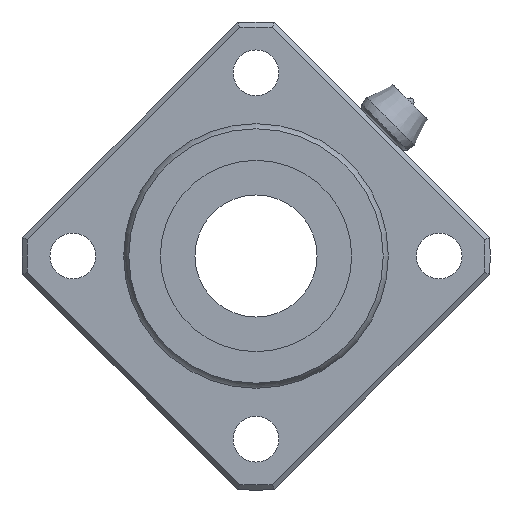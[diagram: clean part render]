
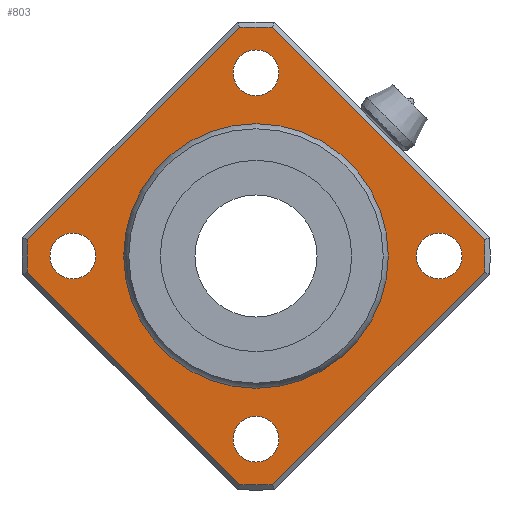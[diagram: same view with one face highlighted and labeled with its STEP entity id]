
A CAD part, left-side view. The second image highlights one B-rep face of the part: STEP entity #803.
In plain terms, the highlighted planar face has unit normal (-1, 0, 0).
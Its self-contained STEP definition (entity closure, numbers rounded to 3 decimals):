
#490=CARTESIAN_POINT('',(6.,-1.598,-22.443));
#491=VERTEX_POINT('',#490);
#499=CARTESIAN_POINT('',(6.,1.598,-22.443));
#500=VERTEX_POINT('',#499);
#501=CARTESIAN_POINT('',(6.,0.0,0.0));
#502=DIRECTION('',(1.0,0.0,0.0));
#503=DIRECTION('',(0.0,0.0,-1.0));
#504=AXIS2_PLACEMENT_3D('',#501,#502,#503);
#505=CIRCLE('',#504,22.5);
#506=EDGE_CURVE('',#491,#500,#505,.T.);
#525=CARTESIAN_POINT('',(6.,22.443,-1.598));
#526=VERTEX_POINT('',#525);
#527=CARTESIAN_POINT('',(6.,1.598,-22.443));
#528=DIRECTION('',(0.0,0.707,0.707));
#529=VECTOR('',#528,29.479);
#530=LINE('',#527,#529);
#531=EDGE_CURVE('',#500,#526,#530,.T.);
#558=CARTESIAN_POINT('',(6.,22.443,1.598));
#559=VERTEX_POINT('',#558);
#560=CARTESIAN_POINT('',(6.,0.0,0.0));
#561=DIRECTION('',(1.0,0.0,0.0));
#562=DIRECTION('',(0.0,0.0,1.0));
#563=AXIS2_PLACEMENT_3D('',#560,#561,#562);
#564=CIRCLE('',#563,22.5);
#565=EDGE_CURVE('',#526,#559,#564,.T.);
#591=CARTESIAN_POINT('',(6.,1.598,22.443));
#592=VERTEX_POINT('',#591);
#593=CARTESIAN_POINT('',(6.,22.443,1.598));
#594=DIRECTION('',(0.0,-0.707,0.707));
#595=VECTOR('',#594,29.479);
#596=LINE('',#593,#595);
#597=EDGE_CURVE('',#559,#592,#596,.T.);
#624=CARTESIAN_POINT('',(6.,-1.598,22.443));
#625=VERTEX_POINT('',#624);
#626=CARTESIAN_POINT('',(6.,0.0,0.0));
#627=DIRECTION('',(1.0,0.0,0.0));
#628=DIRECTION('',(0.0,0.0,1.0));
#629=AXIS2_PLACEMENT_3D('',#626,#627,#628);
#630=CIRCLE('',#629,22.5);
#631=EDGE_CURVE('',#592,#625,#630,.T.);
#655=CARTESIAN_POINT('',(6.,-22.443,1.598));
#656=VERTEX_POINT('',#655);
#657=CARTESIAN_POINT('',(6.,-1.598,22.443));
#658=DIRECTION('',(0.0,-0.707,-0.707));
#659=VECTOR('',#658,29.479);
#660=LINE('',#657,#659);
#661=EDGE_CURVE('',#625,#656,#660,.T.);
#680=CARTESIAN_POINT('',(6.,-22.443,-1.598));
#681=VERTEX_POINT('',#680);
#682=CARTESIAN_POINT('',(6.,0.0,0.0));
#683=DIRECTION('',(1.0,0.0,0.0));
#684=DIRECTION('',(0.0,0.0,1.0));
#685=AXIS2_PLACEMENT_3D('',#682,#683,#684);
#686=CIRCLE('',#685,22.5);
#687=EDGE_CURVE('',#656,#681,#686,.T.);
#706=CARTESIAN_POINT('',(6.,-22.443,-1.598));
#707=DIRECTION('',(0.0,0.707,-0.707));
#708=VECTOR('',#707,29.479);
#709=LINE('',#706,#708);
#710=EDGE_CURVE('',#681,#491,#709,.T.);
#733=CARTESIAN_POINT('',(6.,0.0,17.887));
#734=DIRECTION('',(-1.0,0.0,0.0));
#735=DIRECTION('',(0.0,0.0,1.0));
#736=AXIS2_PLACEMENT_3D('',#733,#734,#735);
#737=PLANE('',#736);
#738=ORIENTED_EDGE('',*,*,#506,.F.);
#739=ORIENTED_EDGE('',*,*,#710,.F.);
#740=ORIENTED_EDGE('',*,*,#687,.F.);
#741=ORIENTED_EDGE('',*,*,#661,.F.);
#742=ORIENTED_EDGE('',*,*,#631,.F.);
#743=ORIENTED_EDGE('',*,*,#597,.F.);
#744=ORIENTED_EDGE('',*,*,#565,.F.);
#745=ORIENTED_EDGE('',*,*,#531,.F.);
#746=EDGE_LOOP('',(#738,#739,#740,#741,#742,#743,#744,#745));
#747=FACE_OUTER_BOUND('',#746,.T.);
#748=CARTESIAN_POINT('',(6.,0.0,12.773));
#749=VERTEX_POINT('',#748);
#750=CARTESIAN_POINT('',(6.,0.0,0.0));
#751=DIRECTION('',(-1.0,0.0,0.0));
#752=DIRECTION('',(0.0,0.0,1.0));
#753=AXIS2_PLACEMENT_3D('',#750,#751,#752);
#754=CIRCLE('',#753,12.773);
#755=EDGE_CURVE('',#749,#749,#754,.T.);
#756=ORIENTED_EDGE('',*,*,#755,.F.);
#757=EDGE_LOOP('',(#756));
#758=FACE_BOUND('',#757,.T.);
#759=CARTESIAN_POINT('',(6.,15.75,0.));
#760=VERTEX_POINT('',#759);
#761=CARTESIAN_POINT('',(6.,18.0,0.));
#762=DIRECTION('',(1.0,0.0,0.0));
#763=DIRECTION('',(0.0,1.0,0.0));
#764=AXIS2_PLACEMENT_3D('',#761,#762,#763);
#765=CIRCLE('',#764,2.25);
#766=EDGE_CURVE('',#760,#760,#765,.T.);
#767=ORIENTED_EDGE('',*,*,#766,.T.);
#768=EDGE_LOOP('',(#767));
#769=FACE_BOUND('',#768,.T.);
#770=CARTESIAN_POINT('',(6.,-20.25,0.));
#771=VERTEX_POINT('',#770);
#772=CARTESIAN_POINT('',(6.,-18.0,0.));
#773=DIRECTION('',(1.0,0.0,0.0));
#774=DIRECTION('',(0.0,1.0,0.0));
#775=AXIS2_PLACEMENT_3D('',#772,#773,#774);
#776=CIRCLE('',#775,2.25);
#777=EDGE_CURVE('',#771,#771,#776,.T.);
#778=ORIENTED_EDGE('',*,*,#777,.T.);
#779=EDGE_LOOP('',(#778));
#780=FACE_BOUND('',#779,.T.);
#781=CARTESIAN_POINT('',(6.,-2.25,18.0));
#782=VERTEX_POINT('',#781);
#783=CARTESIAN_POINT('',(6.,0.,18.0));
#784=DIRECTION('',(1.0,0.0,0.0));
#785=DIRECTION('',(0.0,1.0,0.0));
#786=AXIS2_PLACEMENT_3D('',#783,#784,#785);
#787=CIRCLE('',#786,2.25);
#788=EDGE_CURVE('',#782,#782,#787,.T.);
#789=ORIENTED_EDGE('',*,*,#788,.T.);
#790=EDGE_LOOP('',(#789));
#791=FACE_BOUND('',#790,.T.);
#792=CARTESIAN_POINT('',(6.,-2.25,-18.0));
#793=VERTEX_POINT('',#792);
#794=CARTESIAN_POINT('',(6.,0.,-18.0));
#795=DIRECTION('',(1.0,0.0,0.0));
#796=DIRECTION('',(0.0,1.0,0.0));
#797=AXIS2_PLACEMENT_3D('',#794,#795,#796);
#798=CIRCLE('',#797,2.25);
#799=EDGE_CURVE('',#793,#793,#798,.T.);
#800=ORIENTED_EDGE('',*,*,#799,.T.);
#801=EDGE_LOOP('',(#800));
#802=FACE_BOUND('',#801,.T.);
#803=ADVANCED_FACE('',(#747,#758,#769,#780,#791,#802),#737,.T.);
